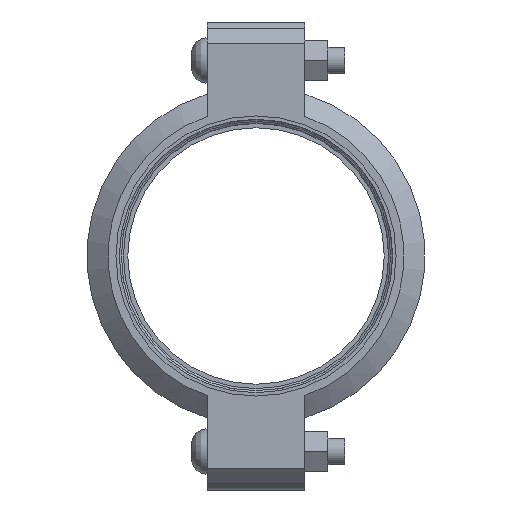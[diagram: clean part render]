
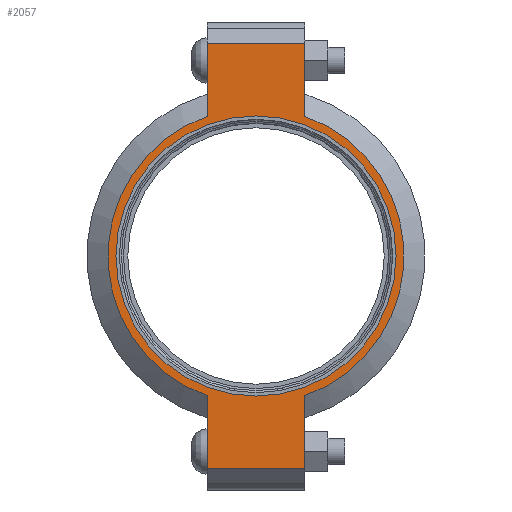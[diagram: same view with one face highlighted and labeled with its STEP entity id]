
A CAD part, left-side view. The second image highlights one B-rep face of the part: STEP entity #2057.
In plain terms, the highlighted planar face has unit normal (-1, 0, 0) as drawn and (0, 0, 1) by its records, which use the part's own axes.
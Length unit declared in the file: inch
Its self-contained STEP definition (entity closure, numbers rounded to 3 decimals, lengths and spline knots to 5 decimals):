
#190=LINE('',#3668,#289);
#198=LINE('',#3704,#297);
#205=LINE('',#3725,#304);
#214=LINE('',#3757,#313);
#215=LINE('',#3761,#314);
#216=LINE('',#3763,#315);
#289=VECTOR('',#3002,0.3937);
#297=VECTOR('',#3018,0.3937);
#304=VECTOR('',#3037,0.3937);
#313=VECTOR('',#3062,0.3937);
#314=VECTOR('',#3067,0.3937);
#315=VECTOR('',#3068,0.3937);
#375=FACE_BOUND('',#645,.T.);
#421=PLANE('',#2422);
#517=FACE_OUTER_BOUND('',#644,.T.);
#644=EDGE_LOOP('',(#1786,#1787,#1788,#1789,#1790,#1791,#1792,#1793));
#645=EDGE_LOOP('',(#1794));
#792=CIRCLE('',#2364,3.3125);
#818=CIRCLE('',#2423,3.5);
#819=CIRCLE('',#2424,3.5);
#943=VERTEX_POINT('',#3484);
#986=VERTEX_POINT('',#3665);
#987=VERTEX_POINT('',#3667);
#998=VERTEX_POINT('',#3699);
#999=VERTEX_POINT('',#3703);
#1006=VERTEX_POINT('',#3722);
#1007=VERTEX_POINT('',#3724);
#1017=VERTEX_POINT('',#3760);
#1018=VERTEX_POINT('',#3762);
#1180=EDGE_CURVE('',#943,#943,#792,.T.);
#1241=EDGE_CURVE('',#987,#986,#190,.T.);
#1255=EDGE_CURVE('',#999,#998,#198,.T.);
#1265=EDGE_CURVE('',#1007,#1006,#205,.T.);
#1280=EDGE_CURVE('',#999,#986,#214,.T.);
#1281=EDGE_CURVE('',#998,#1007,#818,.T.);
#1282=EDGE_CURVE('',#1017,#1006,#215,.T.);
#1283=EDGE_CURVE('',#1017,#1018,#216,.T.);
#1284=EDGE_CURVE('',#1018,#987,#819,.T.);
#1786=ORIENTED_EDGE('',*,*,#1280,.F.);
#1787=ORIENTED_EDGE('',*,*,#1255,.T.);
#1788=ORIENTED_EDGE('',*,*,#1281,.T.);
#1789=ORIENTED_EDGE('',*,*,#1265,.T.);
#1790=ORIENTED_EDGE('',*,*,#1282,.F.);
#1791=ORIENTED_EDGE('',*,*,#1283,.T.);
#1792=ORIENTED_EDGE('',*,*,#1284,.T.);
#1793=ORIENTED_EDGE('',*,*,#1241,.T.);
#1794=ORIENTED_EDGE('',*,*,#1180,.T.);
#2057=ADVANCED_FACE('',(#517,#375),#421,.T.);
#2364=AXIS2_PLACEMENT_3D('',#3486,#2878,#2879);
#2422=AXIS2_PLACEMENT_3D('',#3758,#3063,#3064);
#2423=AXIS2_PLACEMENT_3D('',#3759,#3065,#3066);
#2424=AXIS2_PLACEMENT_3D('',#3764,#3069,#3070);
#2878=DIRECTION('center_axis',(0.,0.,-1.));
#2879=DIRECTION('ref_axis',(1.,0.,0.));
#3002=DIRECTION('',(1.,0.,0.));
#3018=DIRECTION('',(-1.,0.,0.));
#3037=DIRECTION('',(-1.,0.,0.));
#3062=DIRECTION('',(0.,-1.,0.));
#3063=DIRECTION('center_axis',(0.,0.,1.));
#3064=DIRECTION('ref_axis',(-1.,0.,0.));
#3065=DIRECTION('center_axis',(0.,0.,1.));
#3066=DIRECTION('ref_axis',(1.,0.,0.));
#3067=DIRECTION('',(0.,1.,0.));
#3068=DIRECTION('',(1.,0.,0.));
#3069=DIRECTION('center_axis',(0.,0.,1.));
#3070=DIRECTION('ref_axis',(1.,0.,0.));
#3484=CARTESIAN_POINT('',(-3.3125,0.,1.065));
#3486=CARTESIAN_POINT('Origin',(0.,0.,1.065));
#3665=CARTESIAN_POINT('',(5.035,-1.156,1.065));
#3667=CARTESIAN_POINT('',(3.30358,-1.156,1.065));
#3668=CARTESIAN_POINT('',(5.535,-1.156,1.065));
#3699=CARTESIAN_POINT('',(3.30358,1.156,1.065));
#3703=CARTESIAN_POINT('',(5.035,1.156,1.065));
#3704=CARTESIAN_POINT('',(-5.535,1.156,1.065));
#3722=CARTESIAN_POINT('',(-5.035,1.156,1.065));
#3724=CARTESIAN_POINT('',(-3.30358,1.156,1.065));
#3725=CARTESIAN_POINT('',(-5.535,1.156,1.065));
#3757=CARTESIAN_POINT('',(5.035,-0.578,1.065));
#3758=CARTESIAN_POINT('Origin',(0.,0.,
1.065));
#3759=CARTESIAN_POINT('Origin',(0.,0.,1.065));
#3760=CARTESIAN_POINT('',(-5.035,-1.156,1.065));
#3761=CARTESIAN_POINT('',(-5.035,0.578,1.065));
#3762=CARTESIAN_POINT('',(-3.30358,-1.156,1.065));
#3763=CARTESIAN_POINT('',(5.535,-1.156,1.065));
#3764=CARTESIAN_POINT('Origin',(0.,0.,1.065));
